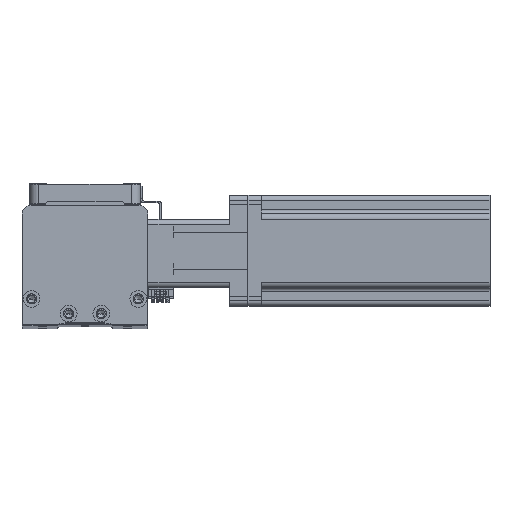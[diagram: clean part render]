
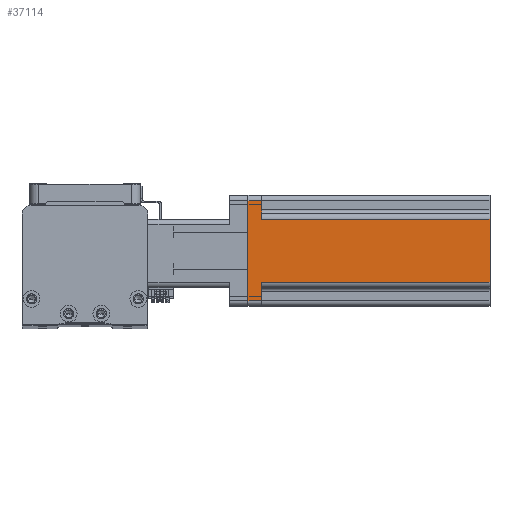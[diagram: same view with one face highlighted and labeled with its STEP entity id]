
A CAD part, top view. The second image highlights one B-rep face of the part: STEP entity #37114.
In plain terms, the highlighted planar face has unit normal (0, 0, 1) as drawn and (1, 0, 0) by its records, which use the part's own axes.
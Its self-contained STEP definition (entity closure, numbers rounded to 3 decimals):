
#404 = LINE ( 'NONE', #16042, #9333 ) ;
#1194 = DIRECTION ( 'NONE',  ( 0., 1., 0. ) ) ;
#1486 = CARTESIAN_POINT ( 'NONE',  ( 30., 17., 7.5 ) ) ;
#2377 = VERTEX_POINT ( 'NONE', #3457 ) ;
#3216 = CARTESIAN_POINT ( 'NONE',  ( 30., 27., 0. ) ) ;
#3457 = CARTESIAN_POINT ( 'NONE',  ( 30., 27., 7.5 ) ) ;
#4318 = CARTESIAN_POINT ( 'NONE',  ( 30., 17., 130.7 ) ) ;
#6779 = ORIENTED_EDGE ( 'NONE', *, *, #19780, .T. ) ;
#6964 = ORIENTED_EDGE ( 'NONE', *, *, #24088, .T. ) ;
#7222 = CARTESIAN_POINT ( 'NONE',  ( 30., 17., 130.7 ) ) ;
#7698 = DIRECTION ( 'NONE',  ( 0., 0., 1. ) ) ;
#7755 = ORIENTED_EDGE ( 'NONE', *, *, #24145, .T. ) ;
#8503 = CARTESIAN_POINT ( 'NONE',  ( 30., -27., 7.5 ) ) ;
#8641 = ORIENTED_EDGE ( 'NONE', *, *, #9098, .T. ) ;
#9098 = EDGE_CURVE ( 'NONE', #40124, #2377, #35646, .T. ) ;
#9333 = VECTOR ( 'NONE', #36153, 1000. ) ;
#10184 = VECTOR ( 'NONE', #39087, 1000. ) ;
#12953 = ORIENTED_EDGE ( 'NONE', *, *, #15798, .T. ) ;
#13274 = EDGE_CURVE ( 'NONE', #14367, #23301, #24882, .T. ) ;
#13476 = CARTESIAN_POINT ( 'NONE',  ( 30., 27., 130.7 ) ) ;
#14287 = EDGE_LOOP ( 'NONE', ( #24255, #6964, #7755, #12953, #24819, #8641, #28340, #6779 ) ) ;
#14367 = VERTEX_POINT ( 'NONE', #34265 ) ;
#14877 = VECTOR ( 'NONE', #1194, 1000. ) ;
#15798 = EDGE_CURVE ( 'NONE', #23469, #22175, #37477, .T. ) ;
#15955 = DIRECTION ( 'NONE',  ( -1., 0., 0. ) ) ;
#16042 = CARTESIAN_POINT ( 'NONE',  ( 30., -17., 7.5 ) ) ;
#16161 = VECTOR ( 'NONE', #26302, 1000. ) ;
#16957 = CARTESIAN_POINT ( 'NONE',  ( 30., -27., 0. ) ) ;
#19394 = CARTESIAN_POINT ( 'NONE',  ( 30., -30., 0. ) ) ;
#19587 = CARTESIAN_POINT ( 'NONE',  ( 30., -30., 7.5 ) ) ;
#19780 = EDGE_CURVE ( 'NONE', #24545, #23301, #25566, .T. ) ;
#21295 = CARTESIAN_POINT ( 'NONE',  ( 30., -30., 130.7 ) ) ;
#21411 = EDGE_CURVE ( 'NONE', #22175, #40124, #22660, .T. ) ;
#21613 = VECTOR ( 'NONE', #22718, 1000. ) ;
#22175 = VERTEX_POINT ( 'NONE', #16957 ) ;
#22410 = VERTEX_POINT ( 'NONE', #42091 ) ;
#22423 = CARTESIAN_POINT ( 'NONE',  ( 30., 30., 7.5 ) ) ;
#22514 = PLANE ( 'NONE',  #39605 ) ;
#22660 = LINE ( 'NONE', #19394, #21613 ) ;
#22718 = DIRECTION ( 'NONE',  ( 0., 1., 0. ) ) ;
#23301 = VERTEX_POINT ( 'NONE', #7222 ) ;
#23469 = VERTEX_POINT ( 'NONE', #8503 ) ;
#23595 = DIRECTION ( 'NONE',  ( 0., 0., 1. ) ) ;
#24088 = EDGE_CURVE ( 'NONE', #14367, #22410, #404, .T. ) ;
#24145 = EDGE_CURVE ( 'NONE', #22410, #23469, #34006, .T. ) ;
#24255 = ORIENTED_EDGE ( 'NONE', *, *, #13274, .F. ) ;
#24545 = VERTEX_POINT ( 'NONE', #1486 ) ;
#24819 = ORIENTED_EDGE ( 'NONE', *, *, #21411, .T. ) ;
#24882 = LINE ( 'NONE', #21295, #14877 ) ;
#25566 = LINE ( 'NONE', #4318, #43428 ) ;
#25868 = DIRECTION ( 'NONE',  ( 0., 0., -1. ) ) ;
#26302 = DIRECTION ( 'NONE',  ( 0., -1., 0. ) ) ;
#28086 = LINE ( 'NONE', #22423, #10184 ) ;
#28340 = ORIENTED_EDGE ( 'NONE', *, *, #28765, .F. ) ;
#28551 = VECTOR ( 'NONE', #25868, 1000. ) ;
#28765 = EDGE_CURVE ( 'NONE', #24545, #2377, #28086, .T. ) ;
#34006 = LINE ( 'NONE', #19587, #16161 ) ;
#34265 = CARTESIAN_POINT ( 'NONE',  ( 30., -17., 130.7 ) ) ;
#34595 = VECTOR ( 'NONE', #23595, 1000. ) ;
#35646 = LINE ( 'NONE', #13476, #34595 ) ;
#35843 = CARTESIAN_POINT ( 'NONE',  ( 30., -27., 130.7 ) ) ;
#36053 = CARTESIAN_POINT ( 'NONE',  ( 30., -30., 130.7 ) ) ;
#36153 = DIRECTION ( 'NONE',  ( 0., 0., -1. ) ) ;
#36618 = FACE_OUTER_BOUND ( 'NONE', #14287, .T. ) ;
#37114 = ADVANCED_FACE ( 'NONE', ( #36618 ), #22514, .F. ) ;
#37477 = LINE ( 'NONE', #35843, #28551 ) ;
#39087 = DIRECTION ( 'NONE',  ( 0., 1., 0. ) ) ;
#39446 = DIRECTION ( 'NONE',  ( 0., 0., 1. ) ) ;
#39605 = AXIS2_PLACEMENT_3D ( 'NONE', #36053, #15955, #39446 ) ;
#40124 = VERTEX_POINT ( 'NONE', #3216 ) ;
#42091 = CARTESIAN_POINT ( 'NONE',  ( 30., -17., 7.5 ) ) ;
#43428 = VECTOR ( 'NONE', #7698, 1000. ) ;
